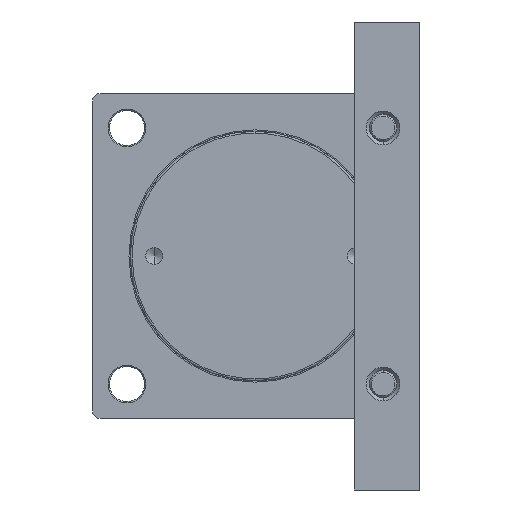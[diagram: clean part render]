
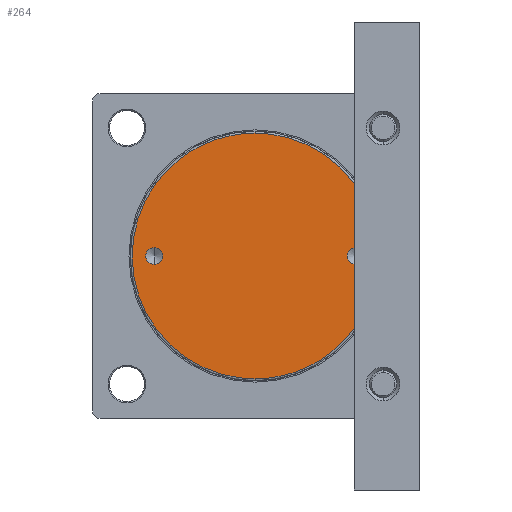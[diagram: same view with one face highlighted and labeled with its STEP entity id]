
A CAD part, left-side view. The second image highlights one B-rep face of the part: STEP entity #264.
In plain terms, the highlighted planar face has unit normal (-1, 0, 0).
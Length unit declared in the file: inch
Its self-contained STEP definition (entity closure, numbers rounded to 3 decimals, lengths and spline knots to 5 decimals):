
#264 = ADVANCED_FACE ( 'NONE', ( #22931, #22877, #22761 ), #21841, .F. ) ;
#275 = EDGE_CURVE ( 'NONE', #2862, #2818, #15115, .T. ) ;
#468 = CARTESIAN_POINT ( 'NONE',  ( -1.43701, -3.05118, 0. ) ) ;
#910 = EDGE_CURVE ( 'NONE', #15341, #8557, #7223, .T. ) ;
#1362 = EDGE_CURVE ( 'NONE', #15256, #23590, #5797, .T. ) ;
#1645 = CARTESIAN_POINT ( 'NONE',  ( -1.43701, 0., -3.72047 ) ) ;
#1676 = CARTESIAN_POINT ( 'NONE',  ( -1.43701, -7.44094, -3.72047 ) ) ;
#1724 = CARTESIAN_POINT ( 'NONE',  ( -1.43701, 0., 3.72047 ) ) ;
#1911 = CARTESIAN_POINT ( 'NONE',  ( -1.43701, -7.44094, 3.72047 ) ) ;
#2355 = DIRECTION ( 'NONE',  ( 0., 0., 1. ) ) ;
#2538 = CARTESIAN_POINT ( 'NONE',  ( -1.43701, 3.05118, -0.25591 ) ) ;
#2818 = VERTEX_POINT ( 'NONE', #19132 ) ;
#2862 = VERTEX_POINT ( 'NONE', #18459 ) ;
#5158 =( BOUNDED_CURVE ( )  B_SPLINE_CURVE ( 3, ( #1724, #1911, #1676, #1645 ),
 .UNSPECIFIED., .F., .F. ) 
 B_SPLINE_CURVE_WITH_KNOTS ( ( 4, 4 ),
 ( 0., 1. ),
 .UNSPECIFIED. ) 
 CURVE ( )  GEOMETRIC_REPRESENTATION_ITEM ( )  RATIONAL_B_SPLINE_CURVE ( ( 1., 0.333, 0.333, 1. ) ) 
 REPRESENTATION_ITEM ( '' )  );
#5228 = ORIENTED_EDGE ( 'NONE', *, *, #1362, .F. ) ;
#5797 = CIRCLE ( 'NONE', #20586, 0.25591 ) ;
#5928 = EDGE_LOOP ( 'NONE', ( #5228, #11131 ) ) ;
#6762 = EDGE_CURVE ( 'NONE', #2818, #2862, #5158, .T. ) ;
#7223 = CIRCLE ( 'NONE', #14048, 0.25591 ) ;
#8126 = CARTESIAN_POINT ( 'NONE',  ( -1.43701, 3.05118, 0.25591 ) ) ;
#8557 = VERTEX_POINT ( 'NONE', #2538 ) ;
#8888 = DIRECTION ( 'NONE',  ( 0., 0., 1. ) ) ;
#8910 = DIRECTION ( 'NONE',  ( -1., 0., 0. ) ) ;
#8938 = CARTESIAN_POINT ( 'NONE',  ( -1.43701, -3.05118, 0. ) ) ;
#8946 = CARTESIAN_POINT ( 'NONE',  ( -1.43701, -3.05118, 0.25591 ) ) ;
#10309 = DIRECTION ( 'NONE',  ( -1., 0., 0. ) ) ;
#11131 = ORIENTED_EDGE ( 'NONE', *, *, #18983, .F. ) ;
#11712 = ORIENTED_EDGE ( 'NONE', *, *, #17957, .F. ) ;
#12192 = AXIS2_PLACEMENT_3D ( 'NONE', #21811, #21780, #21196 ) ;
#12804 = CIRCLE ( 'NONE', #19801, 0.25591 ) ;
#12815 = AXIS2_PLACEMENT_3D ( 'NONE', #468, #13180, #2355 ) ;
#13180 = DIRECTION ( 'NONE',  ( -1., 0., 0. ) ) ;
#13549 = DIRECTION ( 'NONE',  ( 0., 0., 1. ) ) ;
#13604 = DIRECTION ( 'NONE',  ( -1., 0., 0. ) ) ;
#13612 = CARTESIAN_POINT ( 'NONE',  ( -1.43701, 3.05118, 0. ) ) ;
#14048 = AXIS2_PLACEMENT_3D ( 'NONE', #13612, #13604, #13549 ) ;
#15115 =( BOUNDED_CURVE ( )  B_SPLINE_CURVE ( 3, ( #23833, #24045, #21229, #23838 ),
 .UNSPECIFIED., .F., .F. ) 
 B_SPLINE_CURVE_WITH_KNOTS ( ( 4, 4 ),
 ( 0., 1. ),
 .UNSPECIFIED. ) 
 CURVE ( )  GEOMETRIC_REPRESENTATION_ITEM ( )  RATIONAL_B_SPLINE_CURVE ( ( 1., 0.333, 0.333, 1. ) ) 
 REPRESENTATION_ITEM ( '' )  );
#15256 = VERTEX_POINT ( 'NONE', #8946 ) ;
#15341 = VERTEX_POINT ( 'NONE', #8126 ) ;
#16607 = CIRCLE ( 'NONE', #12815, 0.25591 ) ;
#16707 = DIRECTION ( 'NONE',  ( 0., 0., 1. ) ) ;
#17712 = ORIENTED_EDGE ( 'NONE', *, *, #275, .F. ) ;
#17957 = EDGE_CURVE ( 'NONE', #8557, #15341, #12804, .T. ) ;
#18252 = ORIENTED_EDGE ( 'NONE', *, *, #6762, .F. ) ;
#18459 = CARTESIAN_POINT ( 'NONE',  ( -1.43701, 0., -3.72047 ) ) ;
#18983 = EDGE_CURVE ( 'NONE', #23590, #15256, #16607, .T. ) ;
#19132 = CARTESIAN_POINT ( 'NONE',  ( -1.43701, 0., 3.72047 ) ) ;
#19801 = AXIS2_PLACEMENT_3D ( 'NONE', #21728, #10309, #16707 ) ;
#20586 = AXIS2_PLACEMENT_3D ( 'NONE', #8938, #8910, #8888 ) ;
#20746 = EDGE_LOOP ( 'NONE', ( #17712, #18252 ) ) ;
#21196 = DIRECTION ( 'NONE',  ( 0., 0., -1. ) ) ;
#21229 = CARTESIAN_POINT ( 'NONE',  ( -1.43701, 7.44094, 3.72047 ) ) ;
#21728 = CARTESIAN_POINT ( 'NONE',  ( -1.43701, 3.05118, 0. ) ) ;
#21780 = DIRECTION ( 'NONE',  ( 1., 0., 0. ) ) ;
#21811 = CARTESIAN_POINT ( 'NONE',  ( -1.43701, 0., 0. ) ) ;
#21841 = PLANE ( 'NONE',  #12192 ) ;
#22024 = ORIENTED_EDGE ( 'NONE', *, *, #910, .F. ) ;
#22482 = CARTESIAN_POINT ( 'NONE',  ( -1.43701, -3.05118, -0.25591 ) ) ;
#22761 = FACE_OUTER_BOUND ( 'NONE', #20746, .T. ) ;
#22877 = FACE_BOUND ( 'NONE', #5928, .T. ) ;
#22931 = FACE_BOUND ( 'NONE', #23168, .T. ) ;
#23168 = EDGE_LOOP ( 'NONE', ( #22024, #11712 ) ) ;
#23590 = VERTEX_POINT ( 'NONE', #22482 ) ;
#23833 = CARTESIAN_POINT ( 'NONE',  ( -1.43701, 0., -3.72047 ) ) ;
#23838 = CARTESIAN_POINT ( 'NONE',  ( -1.43701, 0., 3.72047 ) ) ;
#24045 = CARTESIAN_POINT ( 'NONE',  ( -1.43701, 7.44094, -3.72047 ) ) ;
